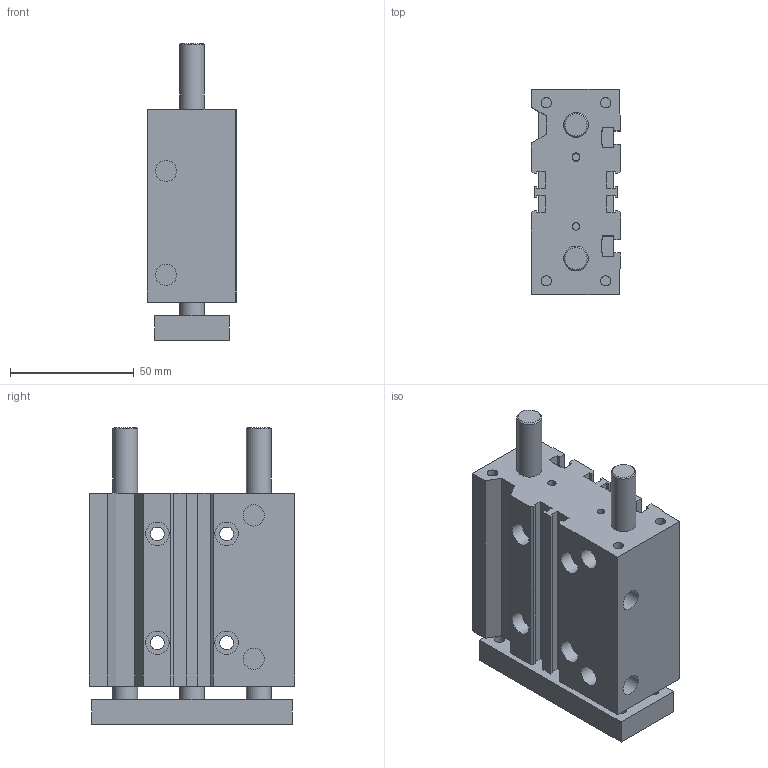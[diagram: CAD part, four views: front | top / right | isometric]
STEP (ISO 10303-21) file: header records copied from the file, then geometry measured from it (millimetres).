
FILE_DESCRIPTION((''),'2;1');
FILE_NAME('K:\A-Mauro\_Inventor\LIBRERIE\6100\6100_#_#_#\6100200040C.stp','2007-02-26T08:50:29',('valotma1'),(''),'Autodesk Inventor 11','Autodesk Inventor 11','');
FILE_SCHEMA(('AUTOMOTIVE_DESIGN { 1 0 10303 214 1 1 1 1 }'));
Length unit declared in the file: millimetre
Products named in the file (3): 6100200040C; CORPO Ø20 C40 C; PIASTRA Ø20 C40 C
Assembly tree (2 placements, depth 2):
  6100200040C
    CORPO Ø20 C40 C
    PIASTRA Ø20 C40 C
Bounding box: 36 x 83 x 120 mm (x, y, z)
Volume: 230337.2 mm3; surface area: 57222.6 mm2
Topology: 2 solids, 2 shells, 158 faces, 393 edges, 261 vertices
Faces by surface type: plane 95, bspline 52, cylinder 9, cone 2
Full cylindrical faces by diameter (mm): 10 x3
Entity records: 4932 total; most frequent: CARTESIAN_POINT 1329, ORIENTED_EDGE 702, DIRECTION 654, EDGE_CURVE 351, VECTOR 270, LINE 270, VERTEX_POINT 253, EDGE_LOOP 234
